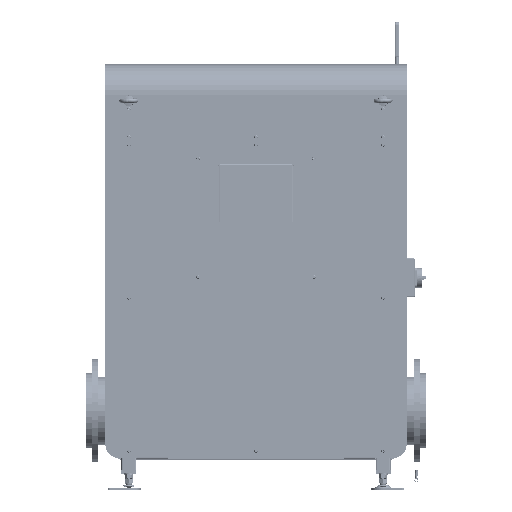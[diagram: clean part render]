
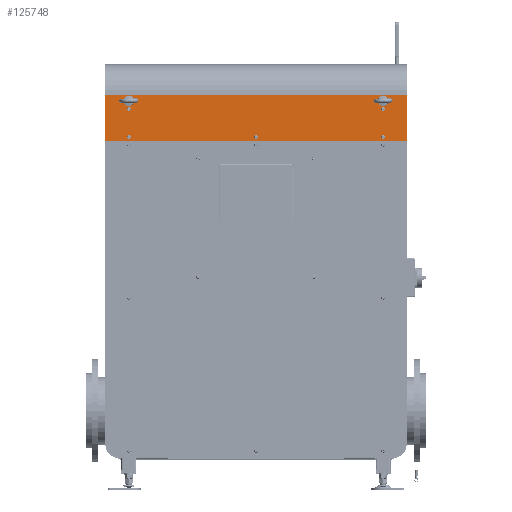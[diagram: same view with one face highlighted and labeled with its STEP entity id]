
A CAD part, top view. The second image highlights one B-rep face of the part: STEP entity #125748.
In plain terms, the highlighted planar face has unit normal (0, 0, 1).
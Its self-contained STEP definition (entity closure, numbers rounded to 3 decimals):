
#7110=FACE_BOUND('',#19647,.T.);
#7111=FACE_BOUND('',#19648,.T.);
#7112=FACE_BOUND('',#19649,.T.);
#7113=FACE_BOUND('',#19650,.T.);
#7114=FACE_BOUND('',#19651,.T.);
#7115=FACE_BOUND('',#19652,.T.);
#7116=FACE_BOUND('',#19653,.T.);
#8473=PLANE('',#133443);
#12306=FACE_OUTER_BOUND('',#19646,.T.);
#19646=EDGE_LOOP('',(#83461,#83462,#83463,#83464));
#19647=EDGE_LOOP('',(#83465));
#19648=EDGE_LOOP('',(#83466));
#19649=EDGE_LOOP('',(#83467));
#19650=EDGE_LOOP('',(#83468));
#19651=EDGE_LOOP('',(#83469));
#19652=EDGE_LOOP('',(#83470));
#19653=EDGE_LOOP('',(#83471));
#28169=LINE('',#171907,#38404);
#28170=LINE('',#171910,#38405);
#28177=LINE('',#171929,#38412);
#28183=LINE('',#171940,#38418);
#38404=VECTOR('',#143992,10.);
#38405=VECTOR('',#143995,10.);
#38412=VECTOR('',#144014,10.);
#38418=VECTOR('',#144024,10.);
#48329=CIRCLE('',#133397,3.);
#48333=CIRCLE('',#133403,3.);
#48337=CIRCLE('',#133409,3.);
#48341=CIRCLE('',#133415,3.);
#48345=CIRCLE('',#133421,3.);
#48349=CIRCLE('',#133427,9.);
#48353=CIRCLE('',#133433,9.);
#52031=VERTEX_POINT('',#171824);
#52035=VERTEX_POINT('',#171836);
#52039=VERTEX_POINT('',#171848);
#52043=VERTEX_POINT('',#171860);
#52047=VERTEX_POINT('',#171872);
#52051=VERTEX_POINT('',#171884);
#52055=VERTEX_POINT('',#171896);
#52056=VERTEX_POINT('',#171900);
#52059=VERTEX_POINT('',#171905);
#52060=VERTEX_POINT('',#171909);
#52066=VERTEX_POINT('',#171928);
#64255=EDGE_CURVE('',#52031,#52031,#48329,.T.);
#64261=EDGE_CURVE('',#52035,#52035,#48333,.T.);
#64267=EDGE_CURVE('',#52039,#52039,#48337,.T.);
#64273=EDGE_CURVE('',#52043,#52043,#48341,.T.);
#64279=EDGE_CURVE('',#52047,#52047,#48345,.T.);
#64285=EDGE_CURVE('',#52051,#52051,#48349,.T.);
#64291=EDGE_CURVE('',#52055,#52055,#48353,.T.);
#64295=EDGE_CURVE('',#52056,#52059,#28169,.T.);
#64296=EDGE_CURVE('',#52060,#52056,#28170,.T.);
#64306=EDGE_CURVE('',#52060,#52066,#28177,.T.);
#64312=EDGE_CURVE('',#52059,#52066,#28183,.T.);
#83461=ORIENTED_EDGE('',*,*,#64296,.T.);
#83462=ORIENTED_EDGE('',*,*,#64295,.T.);
#83463=ORIENTED_EDGE('',*,*,#64312,.T.);
#83464=ORIENTED_EDGE('',*,*,#64306,.F.);
#83465=ORIENTED_EDGE('',*,*,#64255,.T.);
#83466=ORIENTED_EDGE('',*,*,#64261,.T.);
#83467=ORIENTED_EDGE('',*,*,#64267,.T.);
#83468=ORIENTED_EDGE('',*,*,#64273,.T.);
#83469=ORIENTED_EDGE('',*,*,#64279,.T.);
#83470=ORIENTED_EDGE('',*,*,#64285,.T.);
#83471=ORIENTED_EDGE('',*,*,#64291,.T.);
#125748=ADVANCED_FACE('',(#12306,#7110,#7111,#7112,#7113,#7114,#7115,#7116),
#8473,.T.);
#133397=AXIS2_PLACEMENT_3D('',#171826,#143901,#143902);
#133403=AXIS2_PLACEMENT_3D('',#171838,#143915,#143916);
#133409=AXIS2_PLACEMENT_3D('',#171850,#143929,#143930);
#133415=AXIS2_PLACEMENT_3D('',#171862,#143943,#143944);
#133421=AXIS2_PLACEMENT_3D('',#171874,#143957,#143958);
#133427=AXIS2_PLACEMENT_3D('',#171886,#143971,#143972);
#133433=AXIS2_PLACEMENT_3D('',#171898,#143985,#143986);
#133443=AXIS2_PLACEMENT_3D('',#171939,#144022,#144023);
#143901=DIRECTION('center_axis',(0.,0.,
-1.));
#143902=DIRECTION('ref_axis',(-1.,0.,0.));
#143915=DIRECTION('center_axis',(0.,0.,
-1.));
#143916=DIRECTION('ref_axis',(-1.,0.,0.));
#143929=DIRECTION('center_axis',(0.,0.,
-1.));
#143930=DIRECTION('ref_axis',(-1.,0.,0.));
#143943=DIRECTION('center_axis',(0.,0.,
-1.));
#143944=DIRECTION('ref_axis',(-1.,0.,0.));
#143957=DIRECTION('center_axis',(0.,0.,
-1.));
#143958=DIRECTION('ref_axis',(-1.,0.,0.));
#143971=DIRECTION('center_axis',(0.,0.,
-1.));
#143972=DIRECTION('ref_axis',(-1.,0.,0.));
#143985=DIRECTION('center_axis',(0.,0.,
-1.));
#143986=DIRECTION('ref_axis',(-1.,0.,0.));
#143992=DIRECTION('',(0.,-1.,0.));
#143995=DIRECTION('',(-1.,0.,0.));
#144014=DIRECTION('',(0.,-1.,0.));
#144022=DIRECTION('center_axis',(0.,0.,
1.));
#144023=DIRECTION('ref_axis',(-1.,0.,0.));
#144024=DIRECTION('',(1.,0.,0.));
#171824=CARTESIAN_POINT('',(28.,1095.5,603.));
#171826=CARTESIAN_POINT('Origin',(25.,1095.5,603.));
#171836=CARTESIAN_POINT('',(864.,1095.5,603.));
#171838=CARTESIAN_POINT('Origin',(861.,1095.5,603.));
#171848=CARTESIAN_POINT('',(864.,1187.5,603.));
#171850=CARTESIAN_POINT('Origin',(861.,1187.5,603.));
#171860=CARTESIAN_POINT('',(446.,1095.5,603.));
#171862=CARTESIAN_POINT('Origin',(443.,1095.5,603.));
#171872=CARTESIAN_POINT('',(28.,1187.5,603.));
#171874=CARTESIAN_POINT('Origin',(25.,1187.5,603.));
#171884=CARTESIAN_POINT('',(870.,1215.,603.));
#171886=CARTESIAN_POINT('Origin',(861.,1215.,603.));
#171896=CARTESIAN_POINT('',(34.,1215.,603.));
#171898=CARTESIAN_POINT('Origin',(25.,1215.,603.));
#171900=CARTESIAN_POINT('',(-53.,1233.,603.));
#171905=CARTESIAN_POINT('',(-53.,1083.,603.));
#171907=CARTESIAN_POINT('',(-53.,2101.306,603.));
#171909=CARTESIAN_POINT('',(939.,1233.,603.));
#171910=CARTESIAN_POINT('',(443.,1233.,603.));
#171928=CARTESIAN_POINT('',(939.,1083.,603.));
#171929=CARTESIAN_POINT('',(939.,2101.306,603.));
#171939=CARTESIAN_POINT('Origin',(443.,1592.153,603.));
#171940=CARTESIAN_POINT('',(-53.,1083.,603.));
